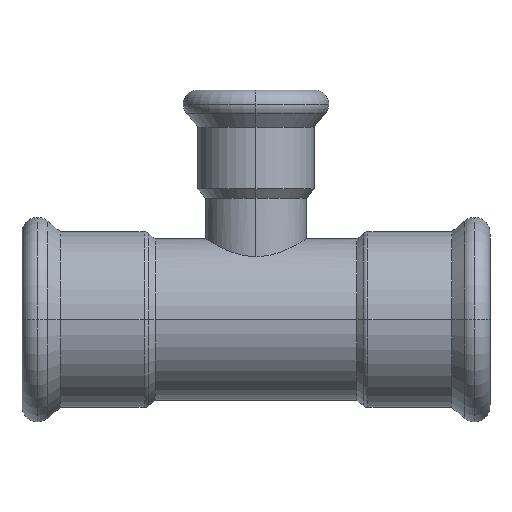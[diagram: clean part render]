
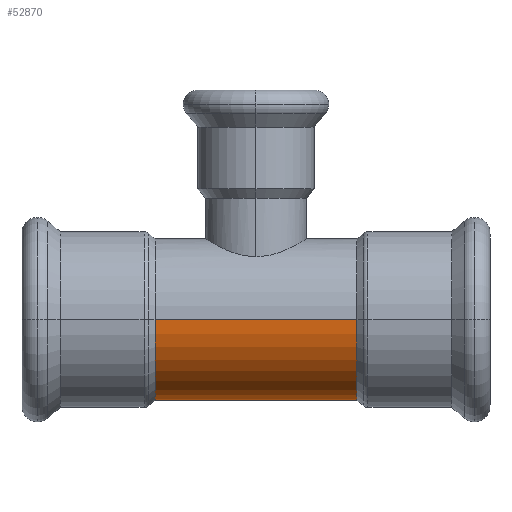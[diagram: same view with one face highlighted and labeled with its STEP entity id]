
A CAD part, left-side view. The second image highlights one B-rep face of the part: STEP entity #52870.
In plain terms, the highlighted cylindrical face has radius 17.594 mm (diameter 35.189 mm), a partial arc.
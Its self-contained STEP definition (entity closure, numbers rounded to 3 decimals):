
#13410=CARTESIAN_POINT('',(-319.291,14.935,-22.));
#13420=DIRECTION('',(0.,0.,-1.));
#13430=DIRECTION('',(1.,0.,0.));
#13440=AXIS2_PLACEMENT_3D('',#13410,#13420,#13430);
#13450=CYLINDRICAL_SURFACE('',#13440,17.594);
#19500=CARTESIAN_POINT('',(-336.885,14.935,-22.));
#19510=DIRECTION('',(0.,0.,-1.));
#19520=VECTOR('',#19510,1.);
#19530=LINE('',#19500,#19520);
#19540=CARTESIAN_POINT('',(-336.885,14.935,
22.));
#19550=VERTEX_POINT('',#19540);
#19560=CARTESIAN_POINT('',(-336.885,14.935,-22.));
#19570=VERTEX_POINT('',#19560);
#19580=EDGE_CURVE('',#19550,#19570,#19530,.T.);
#19600=CARTESIAN_POINT('',(-319.291,14.935,-22.));
#19610=DIRECTION('',(0.,0.,-1.));
#19620=DIRECTION('',(1.,0.,0.));
#19630=AXIS2_PLACEMENT_3D('',#19600,#19610,#19620);
#19640=CIRCLE('',#19630,17.594);
#19650=CARTESIAN_POINT('',(-301.697,14.935,-22.));
#19660=VERTEX_POINT('',#19650);
#19690=CARTESIAN_POINT('',(-301.697,14.935,-22.));
#19700=DIRECTION('',(0.,0.,-1.));
#19710=VECTOR('',#19700,1.);
#19720=LINE('',#19690,#19710);
#19730=CARTESIAN_POINT('',(-301.697,14.935,
22.));
#19740=VERTEX_POINT('',#19730);
#19750=EDGE_CURVE('',#19740,#19660,#19720,.T.);
#19770=CARTESIAN_POINT('',(-319.291,14.935,
22.));
#19780=DIRECTION('',(0.,0.,-1.));
#19790=DIRECTION('',(1.,0.,0.));
#19800=AXIS2_PLACEMENT_3D('',#19770,#19780,#19790);
#19810=CIRCLE('',#19800,17.594);
#52580=EDGE_CURVE('',#19660,#19570,#19640,.T.);
#52800=EDGE_CURVE('',#19740,#19550,#19810,.T.);
#52810=ORIENTED_EDGE('',*,*,#52800,.T.);
#52820=ORIENTED_EDGE('',*,*,#19750,.F.);
#52830=ORIENTED_EDGE('',*,*,#52580,.F.);
#52840=ORIENTED_EDGE('',*,*,#19580,.T.);
#52850=EDGE_LOOP('',(#52840,#52830,#52820,#52810));
#52860=FACE_OUTER_BOUND('',#52850,.T.);
#52870=ADVANCED_FACE('',(#52860),#13450,.T.);
